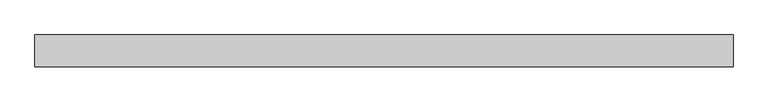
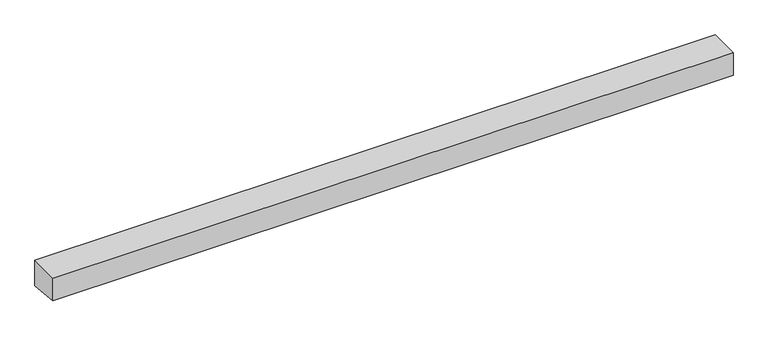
"""IFC4 building model written with IfcOpenShell, lengths in millimetres: proxy geometry, IMPRESS^TABLE 6_4 PC TOP PWR DRAWERS-LT SIDE KEEL."""

from ifc_helpers import new_model, si_unit, frame, origin, place, context, project, spatial, polyline, outline, extrude, source, transform, mapped, element, save


def generic_models_6ec2ff92(model_context):
    return source(origin(), model_context, "Body", "SweptSolid", [
        extrude(outline(polyline([(0.0, -46.4714097), (0.0, 31.75), (101.6, 31.75), (101.6, -57.15), (0.0, -46.4714097)])), frame((0.0, 0.0, 0.0), z_axis=(1.0, 0.0, 0.0), x_axis=(0.0, 1.0, 0.0)), (0.0, 0.0, 1.0), 2222.5),
    ])


if __name__ == "__main__":
    model = new_model("IFC4")
    model_context = context("Model", 3, world=origin())
    ifc_project = project(units=[si_unit("LENGTHUNIT", "METRE", prefix="MILLI")], contexts=[model_context])
    site = spatial("IfcSite", under=ifc_project)
    building = spatial("IfcBuilding", under=site)
    placement = place(None, origin())
    generic_models_shape = generic_models_6ec2ff92(model_context)
    element("IfcBuildingElementProxy", 1, Name="IMPRESS^TABLE 6_4 PC TOP PWR DRAWERS-LT SIDE KEEL", ObjectType="IMPRESS^TABLE 6_4 PC TOP PWR DRAWERS-LT SIDE KEEL", at=placement, inside=building, context=model_context, shape_type="MappedRepresentation", body=[
        mapped(generic_models_shape, transform((0.0, 0.0, 0.0), x_axis=(1.0, 0.0, 0.0), y_axis=(0.0, 1.0, 0.0), z_axis=(0.0, 0.0, 1.0))),
    ])
    save(model, "model.ifc")
